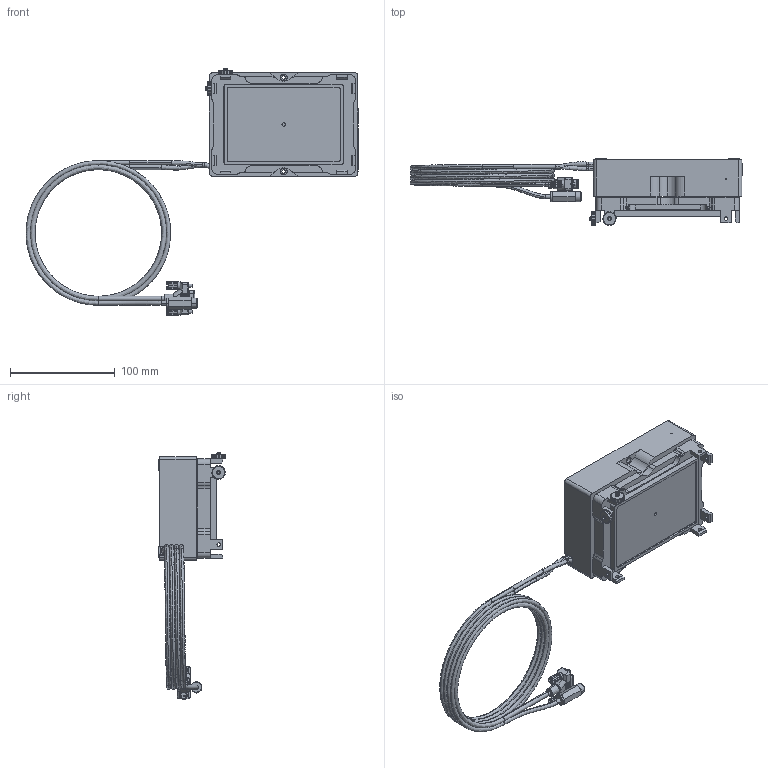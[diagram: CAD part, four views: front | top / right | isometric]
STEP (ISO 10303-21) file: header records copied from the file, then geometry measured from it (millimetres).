
FILE_DESCRIPTION (( 'STEP AP214' ), '1' );
FILE_NAME ('2016-0100-00_20171108.STEP', '2017-11-08T11:22:25', ( '' ), ( '' ), 'SwSTEP 2.0', 'SolidWorks 2017', '' );
FILE_SCHEMA (( 'AUTOMOTIVE_DESIGN' ));
Length unit declared in the file: millimetre
Products named in the file (1): 2016-0100-00_20171108
Bounding box: 317.58 x 63.95 x 236.08 mm (x, y, z)
Surface area: 196158.8 mm2 (no closed solid volume)
Topology: 0 solids, 45 shells, 2918 faces, 7678 edges, 4845 vertices
Faces by surface type: cylinder 1121, plane 1050, cone 416, bspline 258, torus 73
Entity records: 140657 total; most frequent: CARTESIAN_POINT 37220, ORIENTED_EDGE 15120, DIRECTION 14897, EDGE_CURVE 7590, AXIS2_PLACEMENT_3D 5468, VERTEX_POINT 4845, LINE 3961, VECTOR 3961
